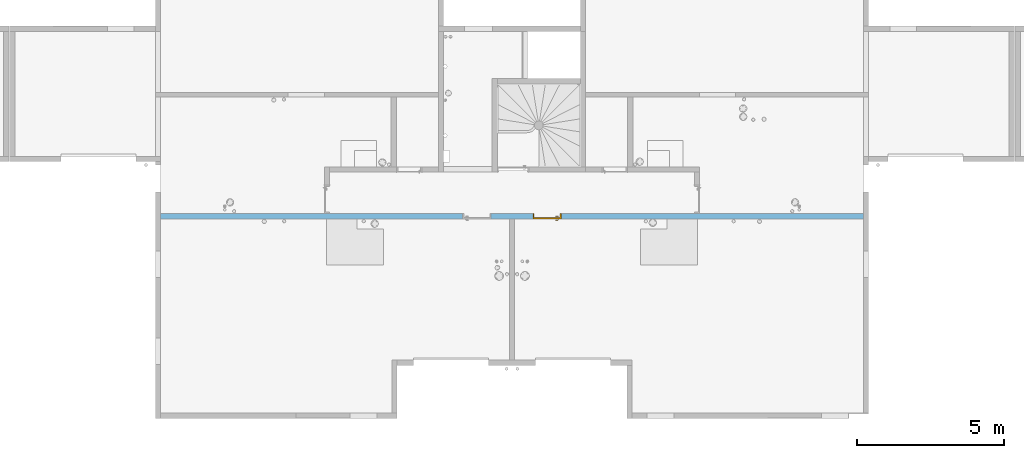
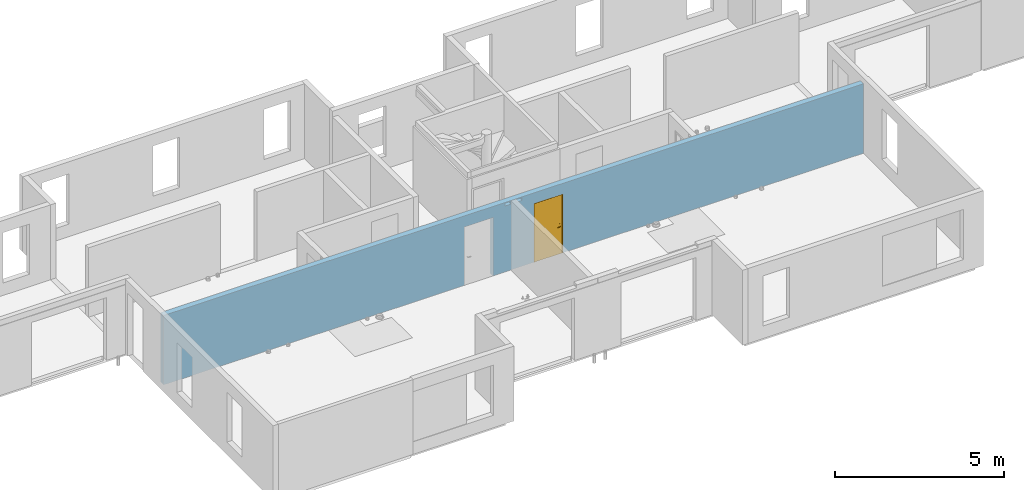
# One storey, part 10 of 30: 1 door, 6 openings, plus 1 element that does not belong to this part.
"""IFC2X3 building model written with IfcOpenShell, lengths in centimetres."""

from ifc_helpers import new_model, entity, si_unit, converted_unit, derived_unit, direction, frame, frame_2d, origin, place, context, subcontext, project, spatial, rectangle, extrude, faceted_brep, source, transform, mapped, material, material_list, layer, layer_set, layer_usage, type_object, type_shapes, element, fill, save


model = new_model("IFC2X3")

# Units and contexts
model_context = context("Model", 3, precision=0.001, world=origin(), true_north=direction((6.12303176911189e-17, 1.0)))
body_context = subcontext(model_context, "Body", "Model", "MODEL_VIEW")
ifc_project = project(units=[si_unit("LENGTHUNIT", "METRE", prefix="CENTI"), si_unit("AREAUNIT", "SQUARE_METRE"), si_unit("VOLUMEUNIT", "CUBIC_METRE"), converted_unit("PLANEANGLEUNIT", "DEGREE", entity("IfcRatioMeasure", 0.0174532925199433), si_unit("PLANEANGLEUNIT", "RADIAN"), dimensions=[0, 0, 0, 0, 0, 0, 0]), si_unit("MASSUNIT", "GRAM", prefix="KILO"), derived_unit("MASSDENSITYUNIT", [(si_unit("MASSUNIT", "GRAM", prefix="KILO"), 1), (si_unit("LENGTHUNIT", "METRE"), -3)]), si_unit("TIMEUNIT", "SECOND"), si_unit("FREQUENCYUNIT", "HERTZ"), si_unit("THERMODYNAMICTEMPERATUREUNIT", "DEGREE_CELSIUS"), derived_unit("THERMALTRANSMITTANCEUNIT", [(si_unit("MASSUNIT", "GRAM", prefix="KILO"), 1), (si_unit("THERMODYNAMICTEMPERATUREUNIT", "KELVIN"), -1), (si_unit("TIMEUNIT", "SECOND"), -3)]), derived_unit("VOLUMETRICFLOWRATEUNIT", [(si_unit("LENGTHUNIT", "METRE"), 3), (si_unit("TIMEUNIT", "SECOND"), -1)]), si_unit("ELECTRICCURRENTUNIT", "AMPERE"), si_unit("ELECTRICVOLTAGEUNIT", "VOLT"), si_unit("POWERUNIT", "WATT"), si_unit("FORCEUNIT", "NEWTON"), si_unit("ILLUMINANCEUNIT", "LUX"), si_unit("LUMINOUSFLUXUNIT", "LUMEN"), si_unit("LUMINOUSINTENSITYUNIT", "CANDELA"), derived_unit("USERDEFINED", [(si_unit("MASSUNIT", "GRAM", prefix="KILO"), -1), (si_unit("LENGTHUNIT", "METRE"), -2), (si_unit("TIMEUNIT", "SECOND"), 3), (si_unit("LUMINOUSFLUXUNIT", "LUMEN"), 1)]), derived_unit("LINEARVELOCITYUNIT", [(si_unit("LENGTHUNIT", "METRE"), 1), (si_unit("TIMEUNIT", "SECOND"), -1)]), si_unit("PRESSUREUNIT", "PASCAL"), derived_unit("USERDEFINED", [(si_unit("LENGTHUNIT", "METRE"), -2), (si_unit("MASSUNIT", "GRAM", prefix="KILO"), 1), (si_unit("TIMEUNIT", "SECOND"), -2)])], contexts=[model_context])

# Site, building, storey
site_placement = place(None, origin())
site = spatial("IfcSite", under=ifc_project, at=site_placement, Name="Default", CompositionType="ELEMENT")
building_placement = place(site_placement, origin())
building = spatial("IfcBuilding", under=site, at=building_placement, Name="CAGE 03", CompositionType="ELEMENT")
storey_placement = place(building_placement, frame((0.0, 0.0, 610.0)))
storey = spatial("IfcBuildingStorey", under=building, at=storey_placement, Name="R+2", CompositionType="ELEMENT", Elevation=610.0)

# Wall, openings, door
ifc_material_1 = material(Name="Béton, C25/30")
ifc_layer = layer(ifc_material_1, 18.0)
ifc_layer_set = layer_set([ifc_layer], Name="Mur de base:Voile BA 18")
ifc_layer_usage = layer_usage(ifc_layer_set, "AXIS2", "NEGATIVE", 9.0)
wall_type = type_object("IfcWallType", Name="Mur de base:Voile BA 18", PredefinedType="STANDARD", material=ifc_layer_set)
wall_placement = place(storey_placement, frame((5888.36582014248, 4483.6606660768, 0.0)))
wall = element("IfcWallStandardCase", 1, at=wall_placement, inside=storey, type_object=wall_type, material=ifc_layer_usage, Name="Mur de base:Voile BA 18", ObjectType="Mur de base:Voile BA 18", context=body_context, shape_type="SweptSolid", body=[
    extrude(rectangle(XDim=2385.99999999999, YDim=17.9999999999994, at=frame_2d((1193.0, -8.88178419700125e-16), x_axis=(-1.0, 0.0))), origin(), (0.0, 0.0, 1.0), 250.0),
])
opening_1_placement = place(wall_placement, origin())
element("IfcOpeningElement", 2, at=opening_1_placement, cuts=wall, Name="Mur de base:Voile BA 18", ObjectType="Opening", context=body_context, shape_type="SweptSolid", body=[
    extrude(rectangle(XDim=210.000000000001, YDim=18.0000000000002, at=frame_2d((4.33431068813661e-13, -5.6843418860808e-14), x_axis=(0.0, 1.0))), frame((565.0, 9.0, 105.0), z_axis=(0.0, 1.0, 0.0), x_axis=(1.0, 0.0, 0.0)), (0.0, 0.0, 1.0), 96.9999999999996),
])
opening_2_placement = place(wall_placement, origin())
element("IfcOpeningElement", 3, at=opening_2_placement, cuts=wall, Name="Mur de base:Voile BA 18", ObjectType="Opening", context=body_context, shape_type="SweptSolid", body=[
    extrude(rectangle(XDim=210.000000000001, YDim=18.0000000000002, at=frame_2d((4.33431068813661e-13, -5.6843418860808e-14), x_axis=(0.0, 1.0))), frame((1821.0, 9.0, 105.0), z_axis=(0.0, 1.0, 0.0), x_axis=(1.0, 0.0, 0.0)), (0.0, 0.0, 1.0), 96.9999999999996),
])
opening_3_placement = place(wall_placement, origin())
element("IfcOpeningElement", 4, at=opening_3_placement, cuts=wall, Name="Mur de base:Voile BA 18", ObjectType="Opening", context=body_context, shape_type="SweptSolid", body=[
    extrude(rectangle(XDim=10.0, YDim=19.9999999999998, at=frame_2d((4.33431068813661e-13, -5.41788836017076e-14), x_axis=(0.0, 1.0))), frame((1174.0, -9.0, 242.5), z_axis=(0.0, 1.0, 0.0), x_axis=(1.0, 0.0, 0.0)), (0.0, 0.0, 1.0), 17.9999999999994),
])
opening_4_placement = place(wall_placement, origin())
element("IfcOpeningElement", 5, at=opening_4_placement, cuts=wall, Name="Mur de base:Voile BA 18", ObjectType="Opening", context=body_context, shape_type="SweptSolid", body=[
    extrude(rectangle(XDim=10.0, YDim=19.9999999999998, at=frame_2d((4.33431068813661e-13, -5.41788836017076e-14), x_axis=(0.0, 1.0))), frame((1212.0, -9.0, 242.5), z_axis=(0.0, 1.0, 0.0), x_axis=(1.0, 0.0, 0.0)), (0.0, 0.0, 1.0), 17.9999999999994),
])
opening_5_placement = place(wall_placement, frame((1122.5, 9.0, 0.0)))
element("IfcOpeningElement", 6, at=opening_5_placement, cuts=wall, Name="Int. Simple:HB93:1", ObjectType="Opening", context=body_context, shape_type="SweptSolid", body=[
    extrude(rectangle(XDim=210.000000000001, YDim=96.9999999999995, at=frame_2d((105.000000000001, 48.4999999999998), x_axis=(1.0, 0.0))), frame((0.0, 0.0, 0.0), z_axis=(0.0, -1.0, 0.0), x_axis=(0.0, 0.0, 1.0)), (0.0, 0.0, 1.0), 18.0),
])
opening_6_placement = place(wall_placement, frame((1360.5, 9.0, 0.0)))
opening_6 = element("IfcOpeningElement", 7, at=opening_6_placement, cuts=wall, Name="Int. Simple:HB93:1", ObjectType="Opening", context=body_context, shape_type="SweptSolid", body=[
    extrude(rectangle(XDim=210.000000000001, YDim=96.9999999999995, at=frame_2d((105.000000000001, 48.4999999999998), x_axis=(1.0, 0.0))), frame((0.0, 0.0, 0.0), z_axis=(0.0, -1.0, 0.0), x_axis=(0.0, 0.0, 1.0)), (0.0, 0.0, 1.0), 18.0),
])
ifc_material_2 = material(Name="Finition Peinture - Blanc satiné")
ifc_material_3 = material(Name="Bois - Panneau de porte")
ifc_material_4 = material(Name="Bois - Cadre de porte")
ifc_material_list_1 = material_list([ifc_material_2, ifc_material_3, ifc_material_4])
ifc_material_list_2 = material_list([ifc_material_2, ifc_material_3, ifc_material_4])
door_style = type_object("IfcDoorStyle", Name="HB93", ConstructionType="NOTDEFINED", OperationType="SINGLE_SWING_RIGHT", ParameterTakesPrecedence=False, Sizeable=False, material=ifc_material_list_2)
shared_shape = source(origin(), body_context, "Body", "Brep", [
    faceted_brep([(96.5000000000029, -0.500000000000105, 87.0), (96.5000000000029, -0.500000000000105, 108.0), (95.535276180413, -0.500000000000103, 108.399601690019), (94.5000000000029, -0.500000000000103, 108.535898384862), (93.4647238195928, -0.500000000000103, 108.399601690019), (92.5000000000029, -0.500000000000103, 108.0), (92.5000000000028, -0.500000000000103, 87.0), (93.4647238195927, -0.500000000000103, 86.6003983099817), (94.5000000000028, -0.500000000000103, 86.464101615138), (95.5352761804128, -0.500000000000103, 86.6003983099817), (96.5000000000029, 0.0, 108.0), (96.5000000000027, 0.0, 87.0), (95.5352761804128, 0.0, 86.6003983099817), (94.5000000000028, 0.0, 86.464101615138), (93.4647238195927, 0.0, 86.6003983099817), (92.5000000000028, 0.0, 87.0), (92.5000000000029, 0.0, 108.0), (93.4647238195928, 0.0, 108.399601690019), (94.5000000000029, 0.0, 108.535898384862), (95.535276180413, 0.0, 108.399601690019)], [[[0, 1, 2, 3, 4, 5, 6, 7, 8, 9]], [[10, 11, 12, 13, 14, 15, 16, 17, 18, 19]], [[9, 12, 11, 0]], [[8, 13, 12, 9]], [[7, 14, 13, 8]], [[7, 6, 15, 14]], [[15, 6, 5, 16]], [[4, 17, 16, 5]], [[3, 18, 17, 4]], [[2, 19, 18, 3]], [[2, 1, 10, 19]], [[11, 10, 1, 0]]]),
    faceted_brep([(96.5000000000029, 4.0, 87.0), (96.5000000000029, 4.0, 108.0), (95.535276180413, 4.0, 108.399601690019), (94.5000000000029, 4.0, 108.535898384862), (93.4647238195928, 4.0, 108.399601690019), (92.500000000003, 4.0, 108.0), (92.5000000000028, 4.0, 87.0), (93.4647238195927, 4.0, 86.6003983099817), (94.5000000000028, 4.0, 86.464101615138), (95.5352761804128, 4.0, 86.6003983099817), (94.5000000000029, 4.49999999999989, 108.535898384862), (95.535276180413, 4.49999999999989, 108.399601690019), (96.5000000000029, 4.49999999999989, 108.0), (96.5000000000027, 4.49999999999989, 87.0), (95.5352761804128, 4.49999999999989, 86.6003983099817), (94.5000000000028, 4.49999999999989, 86.464101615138), (93.4647238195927, 4.49999999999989, 86.6003983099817), (92.5000000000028, 4.4999999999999, 87.0), (92.5000000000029, 4.4999999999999, 108.0), (93.4647238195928, 4.49999999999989, 108.399601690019)], [[[0, 1, 2, 3, 4, 5, 6, 7, 8, 9]], [[10, 11, 12, 13, 14, 15, 16, 17, 18, 19]], [[4, 19, 18, 5]], [[3, 10, 19, 4]], [[2, 11, 10, 3]], [[2, 1, 12, 11]], [[13, 12, 1, 0]], [[9, 14, 13, 0]], [[8, 15, 14, 9]], [[7, 16, 15, 8]], [[7, 6, 17, 16]], [[17, 6, 5, 18]]]),
    faceted_brep([(94.2974701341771, -0.500000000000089, 100.778044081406), (94.7025298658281, -0.500000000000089, 100.778044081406), (95.100000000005, -0.500000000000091, 100.699999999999), (95.100000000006, -0.500000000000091, 99.2999999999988), (94.7025298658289, -0.500000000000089, 99.221955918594), (94.297470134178, -0.500000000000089, 99.2219559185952), (93.9000000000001, -0.500000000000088, 99.3000000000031), (93.9000000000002, -0.500000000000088, 100.7), (94.7025298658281, -3.10045754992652, 100.778044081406), (95.1000000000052, -3.26509507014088, 100.7), (94.2974701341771, -2.93267631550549, 100.778044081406), (92.9298602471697, -4.30028620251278, 100.778044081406), (93.0976414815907, -4.70534593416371, 100.778044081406), (93.9000000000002, -2.76803879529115, 100.7), (93.9000000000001, -2.76803879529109, 99.3000000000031), (94.297470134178, -2.93267631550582, 99.2219559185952), (94.7025298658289, -3.10045754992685, 99.221955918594), (93.0976414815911, -4.70534593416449, 99.221955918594), (92.9298602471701, -4.30028620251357, 99.2219559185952), (95.100000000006, -3.26509507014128, 99.2999999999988), (93.2622790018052, -5.1028160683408, 100.7), (92.7652227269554, -3.90281606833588, 100.7), (92.7652227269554, -3.90281606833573, 99.3000000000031), (93.2622790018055, -5.10281606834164, 99.2999999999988), (84.4981359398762, -5.10281606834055, 100.7), (84.4981359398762, -4.70534593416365, 100.778044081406), (84.4981359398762, -4.30028620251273, 100.778044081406), (84.4981359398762, -3.90281606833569, 100.699999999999), (84.4981359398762, -3.90281606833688, 99.3000000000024), (84.4981359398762, -4.30028620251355, 99.2219559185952), (84.4981359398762, -4.70534593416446, 99.221955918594), (84.4981359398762, -5.10281606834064, 99.2999999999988), (88.7139980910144, -4.5028160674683, 100.78786867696), (89.2692302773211, -5.1028160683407, 100.7), (88.6316793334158, -3.90281606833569, 100.7), (88.631679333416, -3.90281606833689, 99.3000000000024), (88.7139981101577, -4.50281607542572, 99.2121313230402), (89.2692310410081, -5.10281606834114, 99.2999999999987)], [[[0, 1, 2, 3, 4, 5, 6, 7]], [[2, 1, 8, 9]], [[1, 0, 10, 11, 12, 8]], [[0, 7, 13, 10]], [[14, 13, 7, 6]], [[5, 15, 14, 6]], [[5, 4, 16, 17, 18, 15]], [[3, 19, 16, 4]], [[9, 19, 3, 2]], [[9, 8, 12, 20]], [[10, 13, 21, 11]], [[22, 21, 13, 14]], [[14, 15, 18, 22]], [[16, 19, 23, 17]], [[20, 23, 19, 9]], [[24, 25, 26, 27, 28, 29, 30, 31]], [[32, 25, 33]], [[33, 25, 24]], [[33, 20, 12]], [[11, 34, 32]], [[34, 11, 21]], [[27, 26, 34]], [[32, 26, 25]], [[32, 34, 26]], [[32, 33, 12]], [[11, 32, 12]], [[21, 22, 35, 28, 27, 34]], [[36, 29, 35]], [[30, 36, 37]], [[18, 35, 22]], [[29, 28, 35]], [[30, 37, 31]], [[37, 17, 23]], [[36, 17, 37]], [[36, 18, 17]], [[36, 35, 18]], [[29, 36, 30]], [[23, 20, 33, 24, 31, 37]]]),
    faceted_brep([(94.2974701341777, 4.49999999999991, 99.2219559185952), (94.7025298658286, 4.49999999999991, 99.221955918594), (95.1000000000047, 4.49999999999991, 99.2999999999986), (95.1000000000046, 4.49999999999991, 100.7), (94.7025298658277, 4.49999999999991, 100.778044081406), (94.2974701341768, 4.49999999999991, 100.778044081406), (93.8999999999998, 4.49999999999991, 100.7), (93.900000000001, 4.49999999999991, 99.3000000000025), (93.8999999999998, 6.7485204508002, 100.7), (93.8999999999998, 6.74852045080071, 99.3000000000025), (94.2974701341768, 6.91315797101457, 100.778044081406), (94.7025298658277, 7.0809392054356, 100.778044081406), (93.0838906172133, 8.69957845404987, 100.778044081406), (92.9161093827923, 8.29451872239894, 100.778044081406), (95.1000000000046, 7.24557672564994, 100.7), (95.1000000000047, 7.24557672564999, 99.2999999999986), (94.7025298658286, 7.08093920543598, 99.221955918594), (94.2974701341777, 6.91315797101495, 99.2219559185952), (92.9161093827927, 8.29451872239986, 99.2219559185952), (93.0838906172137, 8.69957845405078, 99.221955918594), (92.751471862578, 7.89704858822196, 100.7), (92.7514718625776, 7.89704858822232, 99.3000000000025), (93.2485281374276, 9.09704858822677, 100.7), (93.2485281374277, 9.09704858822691, 99.2999999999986), (84.4954216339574, 8.29451872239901, 100.778044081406), (84.4954216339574, 8.69957845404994, 100.778044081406), (84.4954216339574, 9.09704858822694, 100.7), (84.4954216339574, 9.09704858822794, 99.2999999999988), (84.4954216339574, 8.6995784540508, 99.221955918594), (84.4954216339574, 8.29451872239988, 99.2219559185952), (84.4954216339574, 7.89704858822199, 99.3000000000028), (84.4954216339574, 7.89704858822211, 100.7), (88.6234467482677, 7.89704858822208, 100.7), (88.6234479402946, 7.89704858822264, 99.3000000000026), (88.7057655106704, 8.49704858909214, 100.78786867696), (89.255479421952, 9.09704858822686, 100.7), (89.2554795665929, 9.09704858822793, 99.2999999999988), (88.7057654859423, 8.49704858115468, 99.2121313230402)], [[[0, 1, 2, 3, 4, 5, 6, 7]], [[8, 9, 7, 6]], [[5, 10, 8, 6]], [[5, 4, 11, 12, 13, 10]], [[3, 14, 11, 4]], [[14, 3, 2, 15]], [[2, 1, 16, 15]], [[1, 0, 17, 18, 19, 16]], [[0, 7, 9, 17]], [[20, 21, 9, 8]], [[8, 10, 13, 20]], [[14, 22, 12, 11]], [[23, 22, 14, 15]], [[15, 16, 19, 23]], [[17, 9, 21, 18]], [[24, 25, 26, 27, 28, 29, 30, 31]], [[21, 20, 32, 31, 30, 33]], [[34, 24, 32]], [[25, 34, 35]], [[13, 32, 20]], [[24, 31, 32]], [[25, 35, 26]], [[35, 12, 22]], [[34, 12, 35]], [[34, 13, 12]], [[34, 32, 13]], [[24, 34, 25]], [[22, 23, 36, 27, 26, 35]], [[37, 28, 36]], [[36, 28, 27]], [[36, 23, 19]], [[18, 33, 37]], [[33, 18, 21]], [[30, 29, 33]], [[37, 29, 28]], [[37, 33, 29]], [[37, 36, 19]], [[18, 37, 19]]]),
    faceted_brep([(100.500000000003, 4.0, 206.5), (100.500000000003, 4.0, 0.0), (10.5000000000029, 4.0, 0.0), (10.5000000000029, 4.0, 206.5), (100.500000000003, 0.0, 206.5), (10.5000000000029, 0.0, 206.5), (10.5000000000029, 0.0, 0.0), (100.500000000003, 0.0, 0.0)], [[[0, 1, 2, 3]], [[4, 5, 6, 7]], [[3, 5, 4, 0]], [[2, 6, 5, 3]], [[1, 7, 6, 2]], [[0, 4, 7, 1]]]),
    faceted_brep([(104.0, 0.0, 0.0), (100.500000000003, 0.0, 0.0), (100.500000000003, 4.0, 0.0), (99.0, 4.0, 0.0), (99.0, 18.0, 0.0), (104.0, 18.0, 0.0), (104.0, 18.0, 210.0), (104.0, 0.0, 210.0), (99.0, 18.0, 205.0), (12.0, 18.0, 205.0), (12.0, 18.0, 0.0), (7.0, 18.0, 0.0), (7.0, 18.0, 210.0), (99.0, 4.0, 205.0), (100.500000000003, 4.0, 206.5), (10.5000000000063, 4.0, 206.5), (10.5000000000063, 4.0, 0.0), (12.0, 4.0, 0.0), (12.0, 4.0, 205.0), (100.500000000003, 0.0, 206.5), (7.0, 0.0, 210.0), (7.0, 0.0, 0.0), (10.5000000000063, 0.0, 0.0), (10.5000000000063, 0.0, 206.5)], [[[0, 1, 2, 3, 4, 5]], [[5, 6, 7, 0]], [[4, 8, 9, 10, 11, 12, 6, 5]], [[3, 13, 8, 4]], [[2, 14, 15, 16, 17, 18, 13, 3]], [[1, 19, 14, 2]], [[0, 7, 20, 21, 22, 23, 19, 1]], [[12, 11, 21, 20]], [[21, 11, 10, 17, 16, 22]], [[18, 17, 10, 9]], [[23, 22, 16, 15]], [[6, 12, 20, 7]], [[13, 18, 9, 8]], [[19, 23, 15, 14]]]),
    faceted_brep([(102.500000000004, 18.0, 0.0), (102.500000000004, 18.5000000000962, 0.0), (105.500000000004, 18.5000000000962, 0.0), (105.500000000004, 18.0, 0.0), (105.500000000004, 18.0, 211.500000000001), (5.50000000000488, 18.0, 211.500000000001), (5.50000000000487, 18.0, 0.0), (8.50000000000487, 18.0, 0.0), (8.50000000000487, 18.0, 208.500000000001), (102.500000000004, 18.0, 208.500000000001), (105.500000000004, 18.5000000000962, 211.500000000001), (102.500000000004, 18.5000000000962, 208.500000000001), (8.50000000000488, 18.5000000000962, 208.500000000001), (8.50000000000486, 18.5000000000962, 0.0), (5.50000000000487, 18.5000000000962, 0.0), (5.50000000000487, 18.5000000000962, 211.500000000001)], [[[0, 1, 2, 3]], [[3, 4, 5, 6, 7, 8, 9, 0]], [[2, 10, 4, 3]], [[1, 11, 12, 13, 14, 15, 10, 2]], [[0, 9, 11, 1]], [[7, 6, 14, 13]], [[8, 7, 13, 12]], [[15, 14, 6, 5]], [[10, 15, 5, 4]], [[9, 8, 12, 11]]]),
    faceted_brep([(105.500000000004, -0.5, 0.0), (105.500000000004, -0.5, 211.500000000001), (5.50000000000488, -0.5, 211.500000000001), (5.50000000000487, -0.5, 0.0), (8.50000000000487, -0.5, 0.0), (8.50000000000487, -0.5, 208.500000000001), (102.500000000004, -0.5, 208.500000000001), (102.500000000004, -0.5, 0.0), (105.500000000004, 0.0, 0.0), (105.500000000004, 0.0, 211.500000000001), (102.500000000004, 0.0, 0.0), (102.500000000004, 0.0, 208.500000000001), (8.50000000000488, 0.0, 208.500000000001), (8.50000000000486, 0.0, 0.0), (5.50000000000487, 0.0, 0.0), (5.50000000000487, 0.0, 211.500000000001)], [[[0, 1, 2, 3, 4, 5, 6, 7]], [[8, 9, 1, 0]], [[10, 11, 12, 13, 14, 15, 9, 8]], [[7, 6, 11, 10]], [[5, 4, 13, 12]], [[15, 14, 3, 2]], [[9, 15, 2, 1]], [[6, 5, 12, 11]], [[4, 3, 14, 13]], [[7, 10, 8, 0]]]),
])
type_shapes(door_style, [shared_shape])
door_placement = place(opening_6_placement, frame((-104.0, -18.0, 0.0)))
door = element("IfcDoor", 8, at=door_placement, inside=storey, type_object=door_style, material=ifc_material_list_1, Name="Int. Simple:HB93", ObjectType="HB93", OverallHeight=210.000000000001, OverallWidth=96.9999999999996, context=body_context, shape_type="MappedRepresentation", body=[
    mapped(shared_shape, transform((0.0, 0.0, 0.0), scale=1.0)),
])
fill(opening_6, door)

save(model, "model.ifc")
